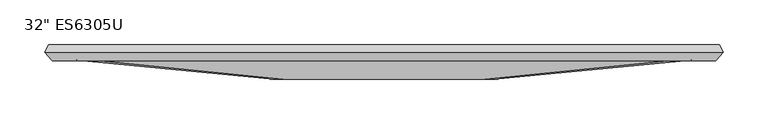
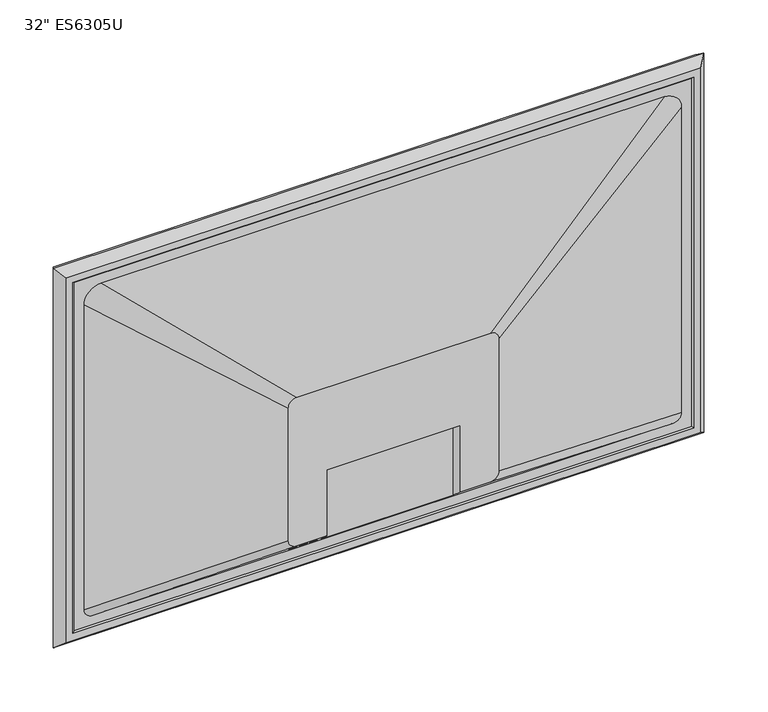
"""IFC4 building model written with IfcOpenShell, lengths in millimetres: proxy geometry."""

import ifcopenshell
import ifcopenshell.guid

model = None  # the IFC model being written
_history = None  # IfcOwnerHistory: only IFC2X3 demands one
_inside = {}  # id of a spatial element -> (the spatial element, [elements in it])
_under = {}  # id of a project, library or spatial element -> (it, [spatial elements below it])
_declared = {}  # id of a project -> (the project, [libraries it declares])
_typed = {}  # id of a type object -> (the type object, [elements of that type])
_made_of = {}  # id of a material, layer set ... -> (it, [elements and type objects made of it])


def new_model(schema):
    """Start an empty IFC model of exactly this schema.

    Asked for "IFC4X3", IfcOpenShell would pick the latest addendum, in which some entities
    have other attributes; the version numbers below select the first issue.
    IFC2X3 requires an IfcOwnerHistory on every rooted entity: one is made here for all.
    """
    global model, _history
    if schema == "IFC4X3":
        model = ifcopenshell.file(schema_version=(4, 3, 0, 0))
    else:
        model = ifcopenshell.file(schema=schema)
    _inside.clear()
    _under.clear()
    _declared.clear()
    _typed.clear()
    _made_of.clear()
    _history = None
    if model.schema == "IFC2X3":
        org = make("IfcOrganization", Name="unknown")
        user = make(
            "IfcPersonAndOrganization",
            ThePerson=make("IfcPerson", FamilyName="unknown"),
            TheOrganization=org,
        )
        app = make(
            "IfcApplication",
            ApplicationDeveloper=org,
            Version="unknown",
            ApplicationFullName="unknown",
            ApplicationIdentifier="unknown",
        )
        _history = make(
            "IfcOwnerHistory",
            OwningUser=user,
            OwningApplication=app,
            ChangeAction="ADDED",
            CreationDate=0,
        )
    return model


def make(cls, **values):
    """One entity of the class cls with the attributes given. An attribute that is None is left unset."""
    return model.create_entity(
        cls, **{name: value for name, value in values.items() if value is not None}
    )


def rooted(cls, **values):
    """An entity with a GlobalId (a new one), such as an element, a storey or a relation."""
    return make(cls, GlobalId=ifcopenshell.guid.new(), OwnerHistory=_history, **values)


def si_unit(unit_type, name, prefix=None):
    """IfcSIUnit, for example si_unit("LENGTHUNIT", "METRE", prefix="MILLI")."""
    return make("IfcSIUnit", UnitType=unit_type, Prefix=prefix, Name=name)


def assignment(units):
    """IfcUnitAssignment: the units of a project."""
    return None if units is None else make("IfcUnitAssignment", Units=units)


def point(xyz):
    """IfcCartesianPoint."""
    return None if xyz is None else make("IfcCartesianPoint", Coordinates=xyz)


def direction(xyz):
    """IfcDirection."""
    return None if xyz is None else make("IfcDirection", DirectionRatios=xyz)


def frame(location, z_axis=None, x_axis=None):
    """IfcAxis2Placement3D, a coordinate frame: its origin and axes. An axis left out is left unset."""
    return make(
        "IfcAxis2Placement3D",
        Location=point(location),
        Axis=direction(z_axis),
        RefDirection=direction(x_axis),
    )


def origin():
    """The frame at (0, 0, 0) with its axes left unset."""
    return frame((0.0, 0.0, 0.0))


def place(relative_to, where):
    """IfcLocalPlacement: puts the frame where relative to a parent placement (None: the world)."""
    return make(
        "IfcLocalPlacement", PlacementRelTo=relative_to, RelativePlacement=where
    )


def context(
    kind, dimensions, precision=None, world=None, true_north=None, identifier=None
):
    """IfcGeometricRepresentationContext, for example the 3D "Model" context."""
    return make(
        "IfcGeometricRepresentationContext",
        ContextIdentifier=identifier,
        ContextType=kind,
        CoordinateSpaceDimension=dimensions,
        Precision=precision,
        WorldCoordinateSystem=world,
        TrueNorth=true_north,
    )


def project(units=None, contexts=None):
    """IfcProject with its units and contexts."""
    return rooted(
        "IfcProject",
        Name="project",
        RepresentationContexts=contexts,
        UnitsInContext=assignment(units),
    )


def spatial(cls, under=None, at=None, **own):
    """A site, building, storey or space (cls), placed at a placement, below another one or the project."""
    s = rooted(cls, ObjectPlacement=at, **own)
    if under is not None:
        _under.setdefault(under.id(), (under, []))[1].append(s)
    return s


def polyline(points):
    """IfcPolyline through the points."""
    return make("IfcPolyline", Points=[point(p) for p in points])


def circle_curve(where, radius):
    """IfcCircle in the frame where."""
    return make("IfcCircle", Position=where, Radius=radius)


def ellipse_curve(where, semi_axis1, semi_axis2):
    """IfcEllipse in the frame where."""
    return make(
        "IfcEllipse", Position=where, SemiAxis1=semi_axis1, SemiAxis2=semi_axis2
    )


def trimmed(basis, trim1, trim2, sense, master):
    """IfcTrimmedCurve: the piece of a basis curve between two trims."""
    return make(
        "IfcTrimmedCurve",
        BasisCurve=basis,
        Trim1=trim1,
        Trim2=trim2,
        SenseAgreement=sense,
        MasterRepresentation=master,
    )


def outline(outer, holes=None, kind="AREA"):
    """IfcArbitraryClosedProfileDef: a profile drawn as a closed curve; with holes, ...WithVoids."""
    if holes is None:
        return make("IfcArbitraryClosedProfileDef", ProfileType=kind, OuterCurve=outer)
    return make(
        "IfcArbitraryProfileDefWithVoids",
        ProfileType=kind,
        OuterCurve=outer,
        InnerCurves=holes,
    )


def extrude(swept, where, along, depth):
    """IfcExtrudedAreaSolid: the profile swept, set in the frame where, extruded along a direction by depth."""
    return make(
        "IfcExtrudedAreaSolid",
        SweptArea=swept,
        Position=where,
        ExtrudedDirection=direction(along),
        Depth=depth,
    )


def faces_of(points, faces, orient=None, outer=None):
    """IfcFace entities. A face is a list of loops; a loop is a list of indices into points, from 0.

    orient and outer hold one flag for each loop. By default every Orientation is true, the
    first loop of a face is its IfcFaceOuterBound and the others are IfcFaceBound.
    """
    made = []
    for i, loops in enumerate(faces):
        bounds = []
        for j, loop in enumerate(loops):
            is_outer = j == 0 if outer is None else outer[i][j]
            bounds.append(
                make(
                    "IfcFaceOuterBound" if is_outer else "IfcFaceBound",
                    Bound=make("IfcPolyLoop", Polygon=[points[k] for k in loop]),
                    Orientation=True if orient is None else orient[i][j],
                )
            )
        made.append(make("IfcFace", Bounds=bounds))
    return made


def faceted_brep(points, faces, orient=None, outer=None, voids=None):
    """IfcFacetedBrep: a solid bounded by flat faces; with voids (closed shells), ...WithVoids."""
    shared = [point(p) for p in points]
    hull = make("IfcClosedShell", CfsFaces=faces_of(shared, faces, orient, outer))
    if voids is None:
        return make("IfcFacetedBrep", Outer=hull)
    return make(
        "IfcFacetedBrepWithVoids",
        Outer=hull,
        Voids=[
            make(cls, CfsFaces=faces_of(shared, fs, o, b)) for cls, fs, o, b in voids
        ],
    )


def shape(context_of_items, identifier, shape_type, items):
    """IfcShapeRepresentation: the items that make up one representation, for example the "Body"."""
    return make(
        "IfcShapeRepresentation",
        ContextOfItems=context_of_items,
        RepresentationIdentifier=identifier,
        RepresentationType=shape_type,
        Items=items,
    )


def source(mapping_origin, context_of_items, identifier, shape_type, items):
    """IfcRepresentationMap: a shape defined once, which mapped items show again and again."""
    return make(
        "IfcRepresentationMap",
        MappingOrigin=mapping_origin,
        MappedRepresentation=shape(context_of_items, identifier, shape_type, items),
    )


def transform(
    local_origin,
    x_axis=None,
    y_axis=None,
    z_axis=None,
    scale=None,
    scale2=None,
    scale3=None,
    uniform=True,
):
    """IfcCartesianTransformationOperator3D, or its non-uniform kind. x_axis, y_axis, z_axis: its Axis1, 2, 3."""
    if uniform:
        return make(
            "IfcCartesianTransformationOperator3D",
            Axis1=direction(x_axis),
            Axis2=direction(y_axis),
            LocalOrigin=point(local_origin),
            Scale=scale,
            Axis3=direction(z_axis),
        )
    return make(
        "IfcCartesianTransformationOperator3DnonUniform",
        Axis1=direction(x_axis),
        Axis2=direction(y_axis),
        LocalOrigin=point(local_origin),
        Scale=scale,
        Axis3=direction(z_axis),
        Scale2=scale2,
        Scale3=scale3,
    )


def mapped(mapping_source, mapping_target):
    """IfcMappedItem: shows the shape of a source again, moved by a transform."""
    return make(
        "IfcMappedItem", MappingSource=mapping_source, MappingTarget=mapping_target
    )


def made_of(thing, what):
    """Note that an element or type object is made of a material, layer set ...; save() writes the relation."""
    if what is not None:
        _made_of.setdefault(what.id(), (what, []))[1].append(thing)
    return thing


def element(
    cls,
    number,
    at=None,
    inside=None,
    cuts=None,
    type_object=None,
    material=None,
    context=None,
    identifier="Body",
    shape_type=None,
    held_by="IfcProductDefinitionShape",
    body=None,
    shapes=None,
    **own,
):
    """One element of the class cls, such as IfcWall. Its Tag is "e" and its number.

    at: its placement. inside: the storey or other place that contains it. cuts: it is an
    opening in that element (IfcRelVoidsElement). A single representation is given by context,
    identifier, shape_type and body (its items); several are given by shapes. held_by: the class
    of the entity that holds the representations. save() writes the other relations.
    """
    e = rooted(cls, Tag="e%d" % number, ObjectPlacement=at, **own)
    if body is not None:
        shapes = [shape(context, identifier, shape_type, body)]
    if shapes is not None:
        e.Representation = make(held_by, Representations=shapes)
    if inside is not None:
        _inside.setdefault(inside.id(), (inside, []))[1].append(e)
    if cuts is not None:
        rooted(
            "IfcRelVoidsElement", RelatingBuildingElement=cuts, RelatedOpeningElement=e
        )
    if type_object is not None:
        _typed.setdefault(type_object.id(), (type_object, []))[1].append(e)
    return made_of(e, material)


def aggregate(whole, parts):
    """IfcRelAggregates: a whole, such as a stair, and the parts it consists of."""
    return rooted("IfcRelAggregates", RelatingObject=whole, RelatedObjects=parts)


def save(model, path):
    """Write the relations noted so far, then the file.

    IfcRelAggregates (storeys below a building ...), IfcRelContainedInSpatialStructure (elements
    in a storey), IfcRelDefinesByType, IfcRelAssociatesMaterial and IfcRelDeclares: one each for
    every whole, place, type object, material and project.
    """
    for whole, parts in _under.values():
        aggregate(whole, parts)
    for where, things in _inside.values():
        rooted(
            "IfcRelContainedInSpatialStructure",
            RelatedElements=things,
            RelatingStructure=where,
        )
    for kind, things in _typed.values():
        rooted("IfcRelDefinesByType", RelatedObjects=things, RelatingType=kind)
    for what, things in _made_of.values():
        rooted("IfcRelAssociatesMaterial", RelatedObjects=things, RelatingMaterial=what)
    for by, libraries in _declared.values():
        rooted("IfcRelDeclares", RelatingContext=by, RelatedDefinitions=libraries)
    model.write(path)


def plane_surface(at):
    """IfcPlane: the flat surface through the origin of the frame at, square to its z axis."""
    return make("IfcPlane", Position=at)


def revolved_surface(curve, axis_point, axis_direction):
    """IfcSurfaceOfRevolution: the curve turned about the line through axis_point along axis_direction."""
    return make(
        "IfcSurfaceOfRevolution",
        SweptCurve=make("IfcArbitraryOpenProfileDef", ProfileType="CURVE", Curve=curve),
        AxisPosition=make("IfcAxis1Placement", Location=point(axis_point), Axis=direction(axis_direction)),
    )


def extruded_surface(curve, direction_of_extrusion, depth):
    """IfcSurfaceOfLinearExtrusion: the curve pushed along a direction by depth."""
    return make(
        "IfcSurfaceOfLinearExtrusion",
        SweptCurve=make("IfcArbitraryOpenProfileDef", ProfileType="CURVE", Curve=curve),
        ExtrudedDirection=direction(direction_of_extrusion),
        Depth=depth,
    )


def spline_surface(u_degree, v_degree, points, u_multiplicities, v_multiplicities, u_knots, v_knots, weights=None):
    """IfcBSplineSurfaceWithKnots; with weights, IfcRationalBSplineSurfaceWithKnots. points: one row for each step in u."""
    own = dict(
        UDegree=u_degree,
        VDegree=v_degree,
        ControlPointsList=[[point(p) for p in row] for row in points],
        SurfaceForm="UNSPECIFIED",
        UClosed=False,
        VClosed=False,
        SelfIntersect=False,
        UMultiplicities=u_multiplicities,
        VMultiplicities=v_multiplicities,
        UKnots=u_knots,
        VKnots=v_knots,
        KnotSpec="UNSPECIFIED",
    )
    if weights is None:
        return make("IfcBSplineSurfaceWithKnots", **own)
    return make("IfcRationalBSplineSurfaceWithKnots", WeightsData=weights, **own)


def advanced_brep(points, edges, surfaces, faces):
    """IfcAdvancedBrep: a solid bounded by faces that lie on surfaces and meet in shared edges.

    An edge is (start, end): straight between two places in points (the first is 0);
    or (start, end, curve); or (start, end, curve, False) where it runs against its curve.
    A face is (place in surfaces, loops), or (place, loops, False) where it looks against
    its surface's normal. A loop lists edges by number (the first is 1), with a minus sign
    where the edge is run from its end to its start. The first loop is the outer one.
    """
    corners = [point(p) for p in points]
    vertices = [make("IfcVertexPoint", VertexGeometry=c) for c in corners]
    made = []
    for start, end, *more in edges:
        made.append(
            make(
                "IfcEdgeCurve",
                EdgeStart=vertices[start],
                EdgeEnd=vertices[end],
                EdgeGeometry=more[0] if more else make("IfcPolyline", Points=[corners[start], corners[end]]),
                SameSense=more[1] if len(more) > 1 else True,
            )
        )
    hull = []
    for where, loops, *sense in faces:
        bounds = []
        for j, loop in enumerate(loops):
            ring = [make("IfcOrientedEdge", EdgeElement=made[abs(k) - 1], Orientation=k > 0) for k in loop]
            bounds.append(
                make(
                    "IfcFaceOuterBound" if j == 0 else "IfcFaceBound",
                    Bound=make("IfcEdgeLoop", EdgeList=ring),
                    Orientation=True,
                )
            )
        hull.append(make("IfcAdvancedFace", Bounds=bounds, FaceSurface=surfaces[where], SameSense=sense[0] if sense else True))
    return make("IfcAdvancedBrep", Outer=make("IfcClosedShell", CfsFaces=hull))


def proxy_15416f9b(model_context):
    return source(origin(), model_context, "Body", "SolidModel", [
        faceted_brep([(-245.0, 228.0, 1424.0), (-245.0, 212.0, 1424.0), (-245.0, 212.0, 976.0), (-245.0, 228.0, 976.0), (-241.9959269, 229.0, 1420.9959269), (-240.6768394, 228.0, 1419.6768394), (-240.6768394, 228.0, 980.3231606), (-241.9959269, 229.0, 979.0040731), (-255.9259805, 220.4959377, 1434.9259805), (-251.0289147, 229.0, 1430.0289147), (-251.0289147, 229.0, 969.9710853), (-255.9259805, 220.4959377, 965.0740195), (-247.0701472, 211.0, 1426.0701472), (-247.0701472, 211.0, 973.9298528), (-236.8560519, 212.0, 1415.8560519), (-238.5579741, 211.0, 1417.5579741), (-238.5579741, 211.0, 982.4420259), (-236.8560519, 212.0, 984.1439481), (495.0, 212.0, 976.0), (495.0, 228.0, 976.0), (490.6768394, 228.0, 980.3231606), (491.9959269, 229.0, 979.0040731), (501.0289147, 229.0, 969.9710853), (505.9259805, 220.4959377, 965.0740195), (497.0701472, 211.0, 973.9298528), (488.5579741, 211.0, 982.4420259), (486.8560519, 212.0, 984.1439481), (495.0, 212.0, 1424.0), (495.0, 228.0, 1424.0), (490.6768394, 228.0, 1419.6768394), (491.9959269, 229.0, 1420.9959269), (501.0289147, 229.0, 1430.0289147), (505.9259805, 220.4959377, 1434.9259805), (497.0701472, 211.0, 1426.0701472), (488.5579741, 211.0, 1417.5579741), (486.8560519, 212.0, 1415.8560519)], [[[0, 1, 2, 3]], [[4, 5, 6, 7]], [[8, 9, 10, 11]], [[12, 8, 11, 13]], [[14, 15, 16, 17]], [[3, 2, 18, 19]], [[7, 6, 20, 21]], [[11, 10, 22, 23]], [[13, 11, 23, 24]], [[17, 16, 25, 26]], [[19, 18, 27, 28]], [[21, 20, 29, 30]], [[23, 22, 31, 32]], [[24, 23, 32, 33]], [[26, 25, 34, 35]], [[28, 27, 1, 0]], [[3, 19, 28, 0], [5, 29, 20, 6]], [[30, 29, 5, 4]], [[9, 31, 22, 10], [7, 21, 30, 4]], [[32, 31, 9, 8]], [[33, 32, 8, 12]], [[13, 24, 33, 12], [15, 34, 25, 16]], [[35, 34, 15, 14]], [[1, 27, 18, 2], [17, 26, 35, 14]]]),
        advanced_brep(
        [(-205.0, 212.0, 1404.0), (455.0, 212.0, 1404.0), (475.0, 212.0, 1384.0), (475.0, 212.0, 1006.0), (465.0, 212.0, 996.0), (-215.0, 212.0, 996.0), (-225.0, 212.0, 1006.0), (-225.0, 212.0, 1384.0), (11.6666667, 190.0, 1200.0), (1.6666667, 190.0, 1190.0), (1.6666667, 190.0, 1026.0), (11.6666667, 190.0, 1016.0), (46.6666667, 190.0, 1016.0), (46.6666667, 190.0, 1098.0), (203.3333333, 190.0, 1098.0), (203.3333333, 190.0, 1016.0), (238.3333333, 190.0, 1016.0), (248.3333333, 190.0, 1026.0), (248.3333333, 190.0, 1190.0), (238.3333333, 190.0, 1200.0), (203.3333333, 206.0, 1001.4545455), (46.6666667, 206.0, 1001.4545455), (20.843372, 200.0, 1006.9090909), (28.843372, 200.0, 1006.9090909), (32.8393281, 200.0, 1006.9090909), (40.8393281, 200.0, 1006.9090909), (8.7618145, 200.0, 1006.9090909), (16.7618145, 200.0, 1006.9090909), (203.3333333, 206.0, 1098.0), (46.6666667, 206.0, 1098.0), (20.843372, 200.0, 1028.0), (24.843372, 200.0, 1028.0), (28.843372, 200.0, 1028.0), (32.8393281, 200.0, 1028.0), (36.8393281, 200.0, 1028.0), (40.8393281, 200.0, 1028.0), (8.7618145, 200.0, 1028.0), (12.7618145, 200.0, 1028.0), (16.7618145, 200.0, 1028.0)],
        [
            (0, 1),
            (1, 2, circle_curve(frame((455.0, 212.0, 1384.0), z_axis=(0.0, 1.0, 0.0), x_axis=(-1.0, 0.0, 0.0)), 20.0)),
            (2, 3),
            (3, 4, circle_curve(frame((465.0, 212.0, 1006.0), z_axis=(0.0, 1.0, 0.0), x_axis=(-1.0, 0.0, 0.0)), 10.0)),
            (4, 5),
            (5, 6, circle_curve(frame((-215.0, 212.0, 1006.0), z_axis=(0.0, 1.0, 0.0), x_axis=(-1.0, 0.0, 0.0)), 10.0)),
            (6, 7),
            (7, 0, circle_curve(frame((-205.0, 212.0, 1384.0), z_axis=(0.0, 1.0, 0.0), x_axis=(-1.0, 0.0, 0.0)), 20.0)),
            (8, 9, circle_curve(frame((11.6666667, 190.0, 1190.0), z_axis=(0.0, -1.0, 0.0), x_axis=(-1.0, 0.0, 0.0)), 10.0)),
            (9, 10),
            (10, 11, circle_curve(frame((11.6666667, 190.0, 1026.0), z_axis=(0.0, -1.0, 0.0), x_axis=(-1.0, 0.0, 0.0)), 10.0)),
            (11, 12),
            (12, 13),
            (13, 14),
            (14, 15),
            (15, 16),
            (16, 17, circle_curve(frame((238.3333333, 190.0, 1026.0), z_axis=(0.0, -1.0, 0.0), x_axis=(-1.0, 0.0, 0.0)), 10.0)),
            (17, 18),
            (18, 19, circle_curve(frame((238.3333333, 190.0, 1190.0), z_axis=(0.0, -1.0, 0.0), x_axis=(-1.0, 0.0, 0.0)), 10.0)),
            (19, 8),
            (0, 8),
            (19, 1),
            (18, 2),
            (17, 3),
            (16, 4),
            (15, 20),
            (20, 21),
            (21, 12),
            (11, 5),
            (22, 23, ellipse_curve(frame((24.843372, 200.0, 1006.9090909), z_axis=(0.0, 0.6726727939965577, 0.7399400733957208), x_axis=(0.0, 0.7399400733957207, -0.6726727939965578)), 5.4058432, 4.0)),
            (23, 22, ellipse_curve(frame((24.843372, 200.0, 1006.9090909), z_axis=(0.0, 0.6726727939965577, 0.7399400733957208), x_axis=(0.0, 0.7399400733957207, -0.6726727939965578)), 5.4058432, 4.0)),
            (24, 25, ellipse_curve(frame((36.8393281, 200.0, 1006.9090909), z_axis=(0.0, 0.6726727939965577, 0.7399400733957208), x_axis=(0.0, 0.7399400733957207, -0.6726727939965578)), 5.4058432, 4.0)),
            (25, 24, ellipse_curve(frame((36.8393281, 200.0, 1006.9090909), z_axis=(0.0, 0.6726727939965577, 0.7399400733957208), x_axis=(0.0, 0.7399400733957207, -0.6726727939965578)), 5.4058432, 4.0)),
            (26, 27, ellipse_curve(frame((12.7618145, 200.0, 1006.9090909), z_axis=(0.0, 0.6726727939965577, 0.7399400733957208), x_axis=(0.0, 0.7399400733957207, -0.6726727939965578)), 5.4058432, 4.0)),
            (27, 26, ellipse_curve(frame((12.7618145, 200.0, 1006.9090909), z_axis=(0.0, 0.6726727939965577, 0.7399400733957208), x_axis=(0.0, 0.7399400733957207, -0.6726727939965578)), 5.4058432, 4.0)),
            (10, 6),
            (9, 7),
            (28, 29),
            (29, 21),
            (20, 28),
            (28, 14),
            (13, 29),
            (30, 31),
            (31, 32),
            (32, 30, circle_curve(frame((24.843372, 200.0, 1028.0), z_axis=(0.0, 0.0, -1.0), x_axis=(1.0, 0.0, 0.0)), 4.0)),
            (30, 32, circle_curve(frame((24.843372, 200.0, 1028.0), z_axis=(0.0, 0.0, -1.0), x_axis=(1.0, 0.0, 0.0)), 4.0)),
            (32, 23),
            (22, 30),
            (33, 34),
            (34, 35),
            (35, 33, circle_curve(frame((36.8393281, 200.0, 1028.0), z_axis=(0.0, 0.0, -1.0), x_axis=(1.0, 0.0, 0.0)), 4.0)),
            (33, 35, circle_curve(frame((36.8393281, 200.0, 1028.0), z_axis=(0.0, 0.0, -1.0), x_axis=(1.0, 0.0, 0.0)), 4.0)),
            (35, 25),
            (24, 33),
            (36, 37),
            (37, 38),
            (38, 36, circle_curve(frame((12.7618145, 200.0, 1028.0), z_axis=(0.0, 0.0, -1.0), x_axis=(1.0, 0.0, 0.0)), 4.0)),
            (36, 38, circle_curve(frame((12.7618145, 200.0, 1028.0), z_axis=(0.0, 0.0, -1.0), x_axis=(1.0, 0.0, 0.0)), 4.0)),
            (38, 27),
            (26, 36),
        ],
        [
            plane_surface(frame((125.0, 212.0, 1197.5), z_axis=(0.0, 1.0, 0.0), x_axis=(1.0, 0.0, 0.0))),
            plane_surface(frame((125.0, 190.0, 1108.0), z_axis=(0.0, -1.0, 0.0), x_axis=(1.0, 0.0, 0.0))),
            plane_surface(frame((125.0, 190.0, 1200.0), z_axis=(0.0, -0.9942351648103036, 0.107221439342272), x_axis=(1.0, 0.0, 0.0))),
            spline_surface(2, 1, [[(238.3333333, 190.0, 1200.0), (455.0, 212.0, 1404.0)], [(248.3333333, 190.0, 1200.0), (475.0, 212.0, 1404.0)], [(248.3333333, 190.0, 1190.0), (475.0, 212.0, 1384.0)]], [3, 3], [2, 2], [0.0, 1.0], [0.0, 1.0], weights=[[1.0, 1.0], [0.7071067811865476, 0.7071067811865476], [1.0, 1.0]]),
            plane_surface(frame((248.3333333, 190.0, 1108.0), z_axis=(0.09660486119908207, -0.9953228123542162, 0.0), x_axis=(0.0, 0.0, -1.0))),
            extruded_surface(trimmed(circle_curve(frame((238.3333333, 190.0, 1026.0), z_axis=(0.0, 1.0, 0.0), x_axis=(-1.0, 0.0, 0.0)), 10.0), [point((248.3333333, 190.0, 1026.0))], [point((238.3333333, 190.0, 1016.0))], True, "CARTESIAN"), (226.6666667, 22.0, -20.0), 228.60835022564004),
            plane_surface(frame((125.0, 190.0, 1016.0), z_axis=(0.0, -0.6726727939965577, -0.7399400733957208), x_axis=(-1.0, 0.0, 0.0))),
            extruded_surface(trimmed(circle_curve(frame((11.6666667, 190.0, 1026.0), z_axis=(0.0, 1.0, 0.0), x_axis=(-1.0, 0.0, 0.0)), 10.0), [point((11.6666667, 190.0, 1016.0))], [point((1.6666667, 190.0, 1026.0))], True, "CARTESIAN"), (-226.6666667, 22.0, -20.0), 228.60835022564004),
            plane_surface(frame((1.6666667, 190.0, 1108.0), z_axis=(-0.09660486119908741, -0.9953228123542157, 0.0), x_axis=(0.0, 0.0, 1.0))),
            spline_surface(2, 1, [[(1.6666667, 190.0, 1190.0), (-225.0, 212.0, 1384.0)], [(1.6666667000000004, 190.0, 1200.0), (-225.0, 212.0, 1404.0)], [(11.6666667, 190.0, 1200.0), (-205.0, 212.0, 1404.0)]], [3, 3], [2, 2], [0.0, 1.0], [0.0, 1.0], weights=[[1.0, 1.0], [0.7071067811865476, 0.7071067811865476], [1.0, 1.0]]),
            plane_surface(frame((203.3333333, 206.0, 1098.0), z_axis=(0.0, -1.0, 0.0), x_axis=(1.0, 0.0, 0.0))),
            plane_surface(frame((46.6666667, 206.0, 1098.0), z_axis=(0.0, 0.0, -1.0), x_axis=(0.0, -1.0, 0.0))),
            plane_surface(frame((203.3333333, 206.0, 1098.0), z_axis=(-1.0, 0.0, 0.0), x_axis=(0.0, -1.0, 0.0))),
            plane_surface(frame((46.6666667, 206.0, 976.0), z_axis=(1.0, 0.0, 0.0), x_axis=(0.0, -1.0, 0.0))),
            plane_surface(frame((24.843372, 200.0, 1028.0), z_axis=(0.0, 0.0, -1.0), x_axis=(1.0, 0.0, 0.0))),
            revolved_surface(polyline([(28.843372, 200.0, 1003.2727272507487), (28.843372, 200.0, 1028.0)]), (24.843372, 200.0, 922.1439481), (0.0, 0.0, -1.0)),
            plane_surface(frame((36.8393281, 200.0, 1028.0), z_axis=(0.0, 0.0, -1.0), x_axis=(1.0, 0.0, 0.0))),
            revolved_surface(polyline([(40.8393281, 200.0, 1003.2727272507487), (40.8393281, 200.0, 1028.0)]), (36.8393281, 200.0, 922.1439481), (0.0, 0.0, -1.0)),
            plane_surface(frame((12.7618145, 200.0, 1028.0), z_axis=(0.0, 0.0, -1.0), x_axis=(1.0, 0.0, 0.0))),
            revolved_surface(polyline([(16.7618145, 200.0, 1003.2727272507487), (16.7618145, 200.0, 1028.0)]), (12.7618145, 200.0, 922.1439481), (0.0, 0.0, -1.0)),
        ],
        [
            (0, [[1, 2, 3, 4, 5, 6, 7, 8]]),
            (1, [[9, 10, 11, 12, 13, 14, 15, 16, 17, 18, 19, 20]]),
            (2, [[-1, 21, -20, 22]]),
            (3, [[-2, -22, -19, 23]]),
            (4, [[-3, -23, -18, 24]]),
            (5, [[-4, -24, -17, 25]]),
            (6, [[-5, -25, -16, 26, 27, 28, -12, 29], [30, 31], [32, 33], [34, 35]]),
            (7, [[-6, -29, -11, 36]]),
            (8, [[-7, -36, -10, 37]]),
            (9, [[-8, -37, -9, -21]]),
            (10, [[38, 39, -27, 40]]),
            (11, [[-38, 41, -14, 42]]),
            (12, [[-41, -40, -26, -15]]),
            (13, [[-42, -13, -28, -39]]),
            (14, [[43, 44, 45]]),
            (14, [[-43, 46, -44]]),
            (15, [[-45, 47, -30, 48]]),
            (15, [[-46, -48, -31, -47]]),
            (16, [[49, 50, 51]]),
            (16, [[-49, 52, -50]]),
            (17, [[-51, 53, -32, 54]]),
            (17, [[-52, -54, -33, -53]]),
            (18, [[55, 56, 57]]),
            (18, [[-55, 58, -56]]),
            (19, [[-57, 59, -34, 60]]),
            (19, [[-58, -60, -35, -59]]),
        ],
    ),
        extrude(outline(polyline([(-245.0, 228.0), (495.0, 228.0), (495.0, 212.0), (-245.0, 212.0), (-245.0, 228.0)])), frame((0.0, 0.0, 976.0), z_axis=(0.0, 0.0, 1.0), x_axis=(1.0, 0.0, 0.0)), (0.0, 0.0, 1.0), 448.0),
    ])


if __name__ == "__main__":
    model = new_model("IFC4")
    model_context = context("Model", 3, world=origin())
    ifc_project = project(units=[si_unit("LENGTHUNIT", "METRE", prefix="MILLI")], contexts=[model_context])
    site = spatial("IfcSite", under=ifc_project)
    building = spatial("IfcBuilding", under=site)
    placement = place(None, origin())
    proxy_shape = proxy_15416f9b(model_context)
    element("IfcBuildingElementProxy", 1, Name="Samsung_6_series_smartTV__Television__TV_13081 : 32\" ES6305U", ObjectType="Samsung_6_series_smartTV__Television__TV_13081 : 32\" ES6305U", at=placement, inside=building, context=model_context, shape_type="MappedRepresentation", body=[
        mapped(proxy_shape, transform((0.0, 0.0, 0.0), x_axis=(1.0, 0.0, 0.0), y_axis=(0.0, 1.0, 0.0), z_axis=(0.0, 0.0, 1.0))),
    ])
    save(model, "model.ifc")
